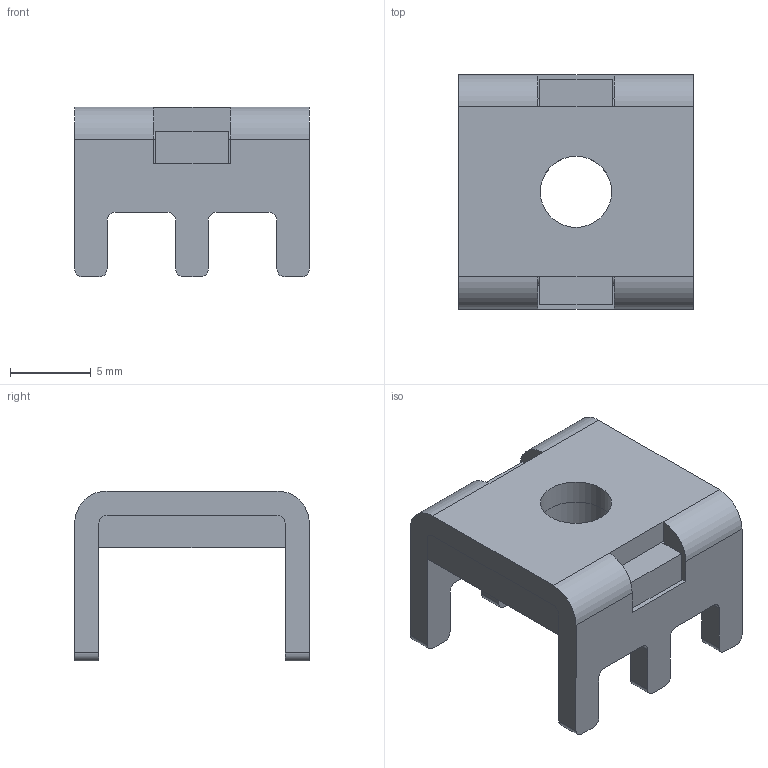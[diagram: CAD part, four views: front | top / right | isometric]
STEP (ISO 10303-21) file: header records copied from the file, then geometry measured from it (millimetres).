
FILE_DESCRIPTION(/* description */ (''),/* implementation_level */ '2;1');
FILE_NAME(/* name */ '14.5x14.5料厚1.5铁板高6.5mm 脚长4.0mm.stp',/* time_stamp */ '2025-06-27T16:33:12+08:00',/* author */ (''),/* organization */ (''),/* preprocessor_version */ 'ST-DEVELOPER v16',/* originating_system */ 'SIEMENS PLM Software NX 10.0',/* authorisation */ '');
FILE_SCHEMA (('AP203_CONFIGURATION_CONTROLLED_3D_DESIGN_OF_MECHANICAL_PARTS_AND_ASSEMBLIES_MIM_LF { 1 0 10303 403 2 1 2}'));
Length unit declared in the file: millimetre
Products named in the file (1): Admi2ABC7C88fy3i
Bounding box: 14.5 x 14.5 x 10.5 mm (x, y, z)
Volume: 833.2 mm3; surface area: 1390.1 mm2
Topology: 2 solids, 2 shells, 82 faces, 239 edges, 157 vertices
Faces by surface type: plane 48, cylinder 34
Full cylindrical faces by diameter (mm): 4.4 x2
Entity records: 2802 total; most frequent: CARTESIAN_POINT 475, ORIENTED_EDGE 472, DIRECTION 470, EDGE_CURVE 236, LINE 168, VECTOR 168, VERTEX_POINT 156, AXIS2_PLACEMENT_3D 151
